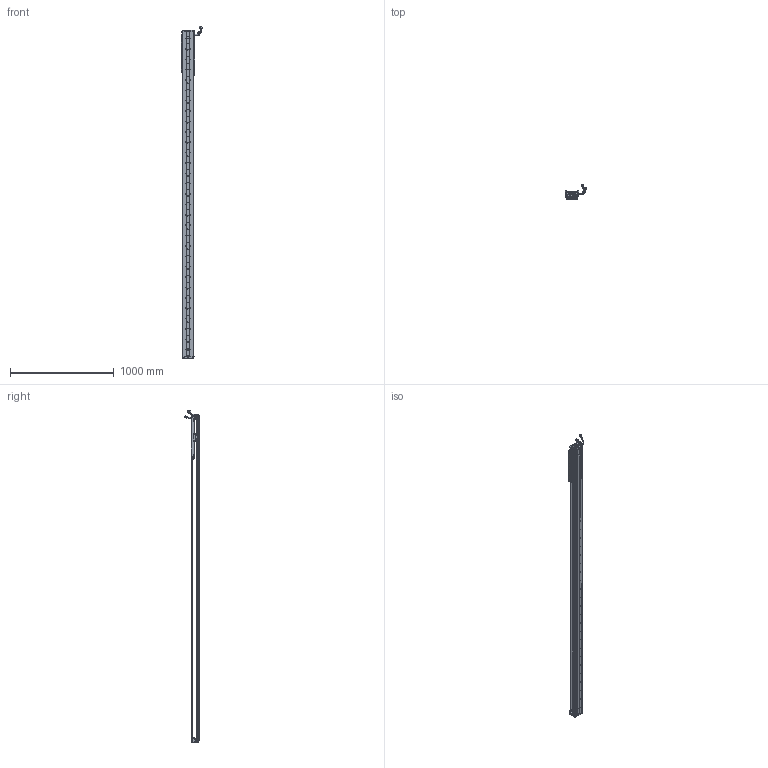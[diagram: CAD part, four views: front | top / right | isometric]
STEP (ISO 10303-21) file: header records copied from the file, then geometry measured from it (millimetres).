
FILE_DESCRIPTION (( 'STEP AP203' ), '1' );
FILE_NAME ('Z5-RY100D-1-L500-B-K.SLDASM_2700.step', '2021-05-17T03:35:25', ( '盈信电脑' ), ( '东莞市道滘镇水果街19号' ), 'SwSTEP 2.0', 'SolidWorks 2016', '' );
FILE_SCHEMA (( 'CONFIG_CONTROL_DESIGN' ));
Length unit declared in the file: millimetre
Products named in the file (36): Z-100詩湍傷裔啣; 覜茼ん672; SCREW-M1.7-1; SCREW-M1.6-3; HARNESS-Part-1; Z5-RY100D-1-L500-B-K.SLDASM_2700; Z-RY100D詩湍奻揤裔; 140蚥薯蝶輸; SCREW-M1.6; HARNESS-Part-2; PBU_SHEET; Z-RY100D覜茼んえ; HOLDER0; 100-Z-臏賑輸盄裔(21遴); SEAL; SHIELDPLATE; SCALE-Part-2; Z5-RY100-L500詩湍90mm遵_2700; 080黍杅芛假蚾釱21遴; 榋妏寠巭燃_暯_M2_2; COVER; SCREW-M1.6-2; HARNESS; Z5-RY100D-500-倰第菁釱_2700; SEAL-Part-1; SCREW-M1.7; LABEL-Part-1; SCREW-M1.6-1; PSLH080_PSLF2; SCALE; COVER-Part-1; 140雄赽晤鎢ん堤盄; LABEL; Z-RY100D詩湍狟揤裔; SCALE-Part-1; Z5-RY100铝滑块（21款）
Assembly tree (43 placements, depth 4):
  Z5-RY100D-1-L500-B-K.SLDASM_2700
    Z5-RY100D-500-倰第菁釱_2700
    Z5-RY100铝滑块（21款）
    PSLH080_PSLF2
      SCALE
        SCALE-Part-1
        SCALE-Part-2
      HARNESS
        HARNESS-Part-1
        HARNESS-Part-2
      LABEL
        LABEL-Part-1
      COVER
        COVER-Part-1
      SEAL
        SEAL-Part-1
      榋妏寠巭燃_暯_M2_2
      SHIELDPLATE
      SCREW-M1.7
      SCREW-M1.7-1
      PBU_SHEET
      SCREW-M1.6
      SCREW-M1.6-1
      SCREW-M1.6-2
      SCREW-M1.6-3
      HOLDER0
    080黍杅芛假蚾釱21遴
    Z-100詩湍傷裔啣  x2
    140蚥薯蝶輸  x2
    覜茼ん672  x3
    Z-RY100D覜茼んえ  x3
    100-Z-臏賑輸盄裔(21遴)
    140雄赽晤鎢ん堤盄
    Z5-RY100-L500詩湍90mm遵_2700
    Z-RY100D詩湍狟揤裔  x2
    Z-RY100D詩湍奻揤裔  x2
Bounding box: 205.79 x 136.11 x 3200.43 mm (x, y, z)
Volume: 5950369.4 mm3; surface area: 2318545.9 mm2
Topology: 38 solids, 38 shells, 3155 faces, 8695 edges, 5564 vertices
Faces by surface type: cylinder 1602, plane 1205, cone 226, torus 69, bspline 53
Entity records: 92853 total; most frequent: CARTESIAN_POINT 19395, DIRECTION 15053, ORIENTED_EDGE 14270, EDGE_CURVE 7135, AXIS2_PLACEMENT_3D 5694, VERTEX_POINT 4632, VECTOR 3665, LINE 3665
